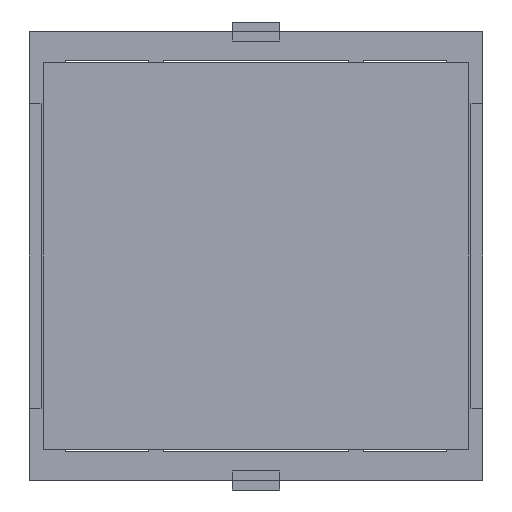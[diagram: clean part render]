
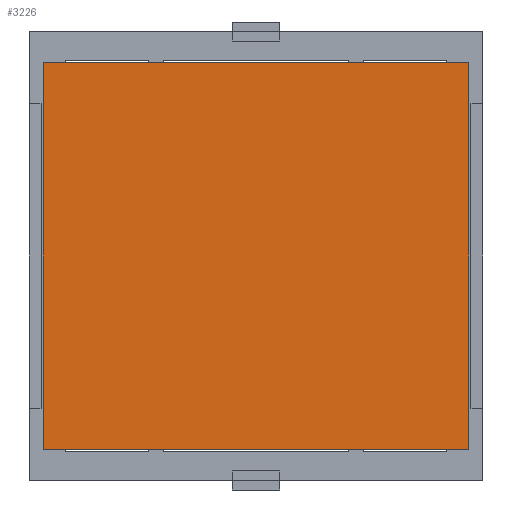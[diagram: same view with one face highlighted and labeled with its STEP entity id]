
A CAD part, front view. The second image highlights one B-rep face of the part: STEP entity #3226.
In plain terms, the highlighted planar face has unit normal (0, -1, 0).
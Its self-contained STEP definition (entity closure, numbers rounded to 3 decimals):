
#3 = VECTOR ( 'NONE', #6250, 1000. ) ;
#81 = DIRECTION ( 'NONE',  ( 1., 0., 0. ) ) ;
#232 = VECTOR ( 'NONE', #7225, 1000. ) ;
#285 = VECTOR ( 'NONE', #81, 1000. ) ;
#720 = LINE ( 'NONE', #5784, #285 ) ;
#1283 = LINE ( 'NONE', #3813, #3 ) ;
#1397 = CARTESIAN_POINT ( 'NONE',  ( -1.731, -17.438, 21.199 ) ) ;
#1696 = AXIS2_PLACEMENT_3D ( 'NONE', #1397, #7182, #3928 ) ;
#1770 = EDGE_CURVE ( 'NONE', #4964, #6889, #1283, .T. ) ;
#1999 = CARTESIAN_POINT ( 'NONE',  ( -1.731, -17.438, 21.199 ) ) ;
#2055 = VERTEX_POINT ( 'NONE', #4076 ) ;
#2174 = VERTEX_POINT ( 'NONE', #1999 ) ;
#2771 = PLANE ( 'NONE',  #1696 ) ;
#3026 = ORIENTED_EDGE ( 'NONE', *, *, #1770, .F. ) ;
#3226 = ADVANCED_FACE ( 'NONE', ( #7749 ), #2771, .F. ) ;
#3274 = EDGE_CURVE ( 'NONE', #2055, #4964, #3341, .T. ) ;
#3341 = LINE ( 'NONE', #4629, #232 ) ;
#3691 = VECTOR ( 'NONE', #5843, 1000. ) ;
#3813 = CARTESIAN_POINT ( 'NONE',  ( -1.731, -17.438, -19.441 ) ) ;
#3928 = DIRECTION ( 'NONE',  ( 0., 0., 1. ) ) ;
#3941 = EDGE_LOOP ( 'NONE', ( #7627, #3026, #5013, #6919 ) ) ;
#4054 = LINE ( 'NONE', #5799, #3691 ) ;
#4076 = CARTESIAN_POINT ( 'NONE',  ( 42.973, -17.438, 21.199 ) ) ;
#4222 = CARTESIAN_POINT ( 'NONE',  ( 42.973, -17.438, -19.441 ) ) ;
#4511 = CARTESIAN_POINT ( 'NONE',  ( -1.731, -17.438, -19.441 ) ) ;
#4629 = CARTESIAN_POINT ( 'NONE',  ( 42.973, -17.438, -19.441 ) ) ;
#4964 = VERTEX_POINT ( 'NONE', #4222 ) ;
#5013 = ORIENTED_EDGE ( 'NONE', *, *, #3274, .F. ) ;
#5108 = EDGE_CURVE ( 'NONE', #6889, #2174, #4054, .T. ) ;
#5784 = CARTESIAN_POINT ( 'NONE',  ( -1.731, -17.438, 21.199 ) ) ;
#5799 = CARTESIAN_POINT ( 'NONE',  ( -1.731, -17.438, -19.441 ) ) ;
#5843 = DIRECTION ( 'NONE',  ( 0., 0., 1. ) ) ;
#6250 = DIRECTION ( 'NONE',  ( -1., 0., 0. ) ) ;
#6889 = VERTEX_POINT ( 'NONE', #4511 ) ;
#6919 = ORIENTED_EDGE ( 'NONE', *, *, #7573, .F. ) ;
#7182 = DIRECTION ( 'NONE',  ( 0., 1., 0. ) ) ;
#7225 = DIRECTION ( 'NONE',  ( 0., 0., -1. ) ) ;
#7573 = EDGE_CURVE ( 'NONE', #2174, #2055, #720, .T. ) ;
#7627 = ORIENTED_EDGE ( 'NONE', *, *, #5108, .F. ) ;
#7749 = FACE_OUTER_BOUND ( 'NONE', #3941, .T. ) ;
